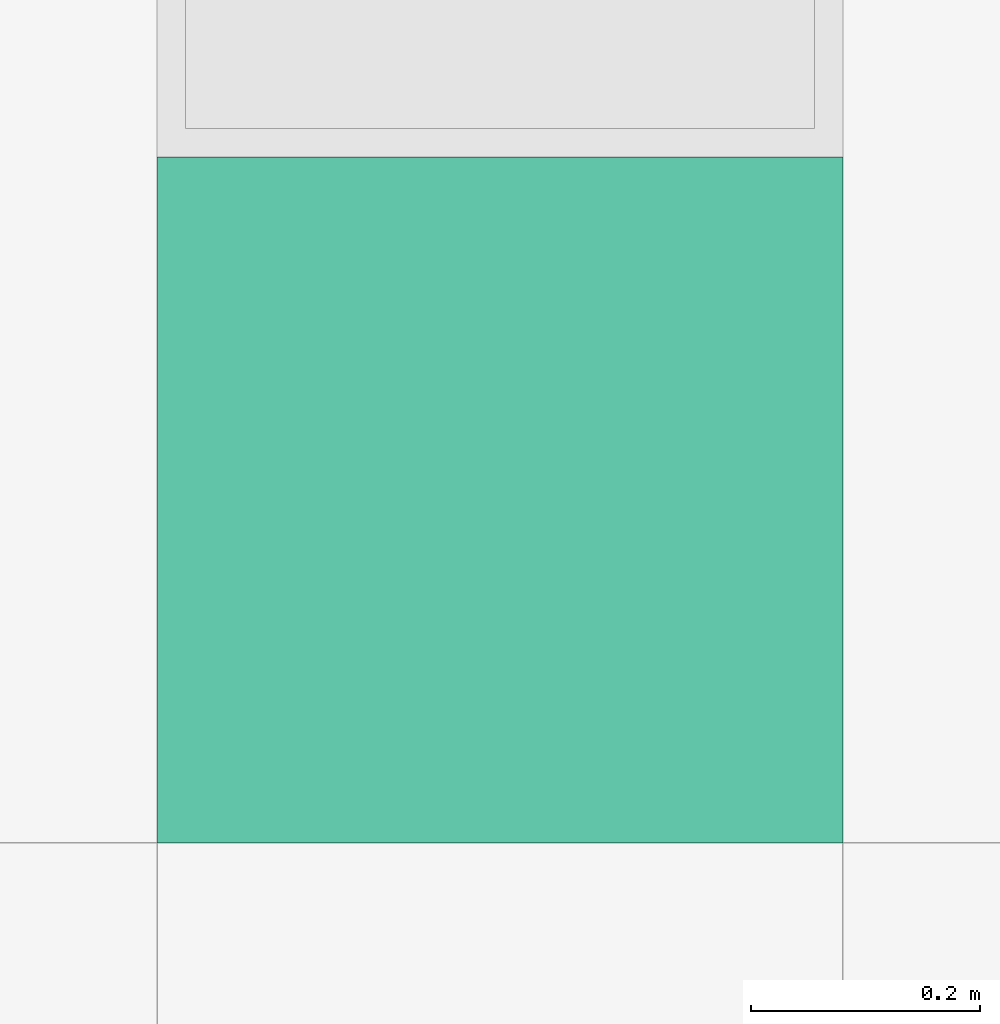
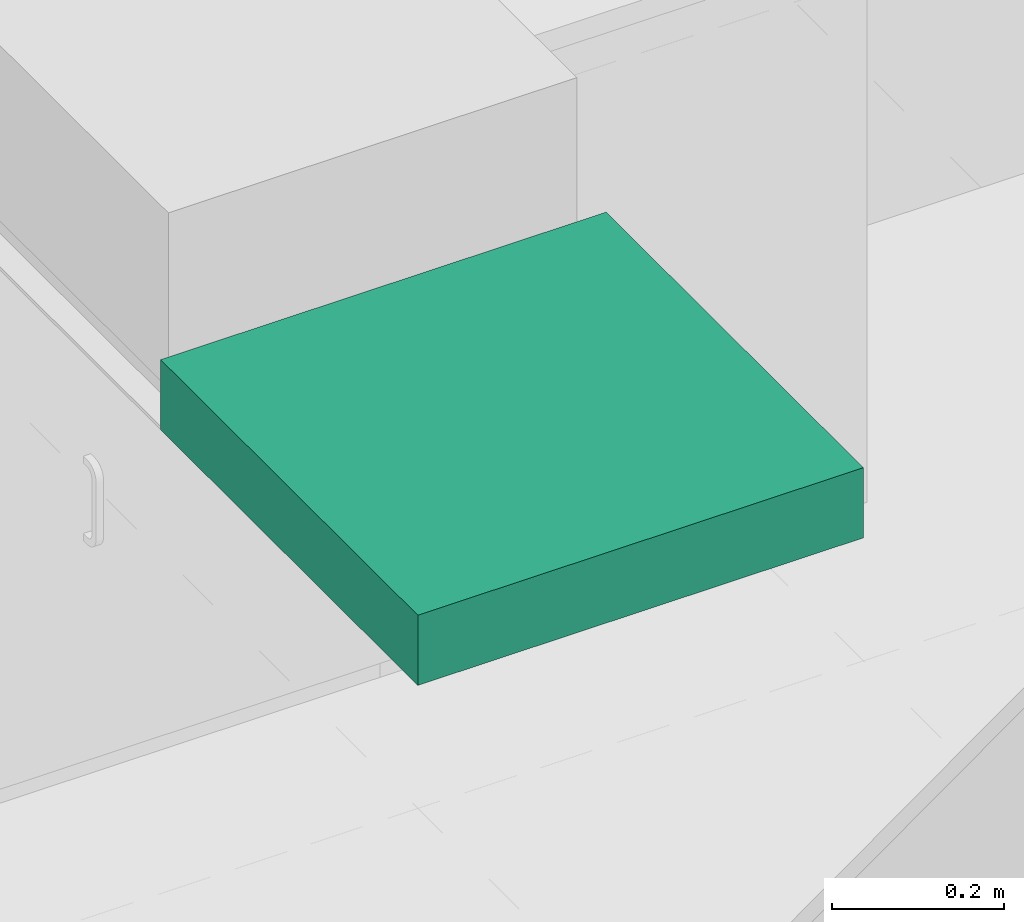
# One storey, part 210 of 347: 1 flow terminal.
"""IFC2X3 building model written with IfcOpenShell, lengths in millimetres."""

import ifcopenshell
import ifcopenshell.guid

model = None  # the IFC model being written
_history = None  # IfcOwnerHistory: only IFC2X3 demands one
_inside = {}  # id of a spatial element -> (the spatial element, [elements in it])
_under = {}  # id of a project, library or spatial element -> (it, [spatial elements below it])
_declared = {}  # id of a project -> (the project, [libraries it declares])
_typed = {}  # id of a type object -> (the type object, [elements of that type])
_made_of = {}  # id of a material, layer set ... -> (it, [elements and type objects made of it])


def new_model(schema):
    """Start an empty IFC model of exactly this schema.

    Asked for "IFC4X3", IfcOpenShell would pick the latest addendum, in which some entities
    have other attributes; the version numbers below select the first issue.
    IFC2X3 requires an IfcOwnerHistory on every rooted entity: one is made here for all.
    """
    global model, _history
    if schema == "IFC4X3":
        model = ifcopenshell.file(schema_version=(4, 3, 0, 0))
    else:
        model = ifcopenshell.file(schema=schema)
    _inside.clear()
    _under.clear()
    _declared.clear()
    _typed.clear()
    _made_of.clear()
    _history = None
    if model.schema == "IFC2X3":
        org = make("IfcOrganization", Name="unknown")
        user = make(
            "IfcPersonAndOrganization",
            ThePerson=make("IfcPerson", FamilyName="unknown"),
            TheOrganization=org,
        )
        app = make(
            "IfcApplication",
            ApplicationDeveloper=org,
            Version="unknown",
            ApplicationFullName="unknown",
            ApplicationIdentifier="unknown",
        )
        _history = make(
            "IfcOwnerHistory",
            OwningUser=user,
            OwningApplication=app,
            ChangeAction="ADDED",
            CreationDate=0,
        )
    return model


def make(cls, **values):
    """One entity of the class cls with the attributes given. An attribute that is None is left unset."""
    return model.create_entity(
        cls, **{name: value for name, value in values.items() if value is not None}
    )


def entity(cls, *values):
    """Any entity or typed value of the class cls, its attributes in the order of the schema. None: left unset."""
    e = model.create_entity(cls)
    for i, value in enumerate(values):
        if value is not None:
            e[i] = value
    return e


def rooted(cls, **values):
    """An entity with a GlobalId (a new one), such as an element, a storey or a relation."""
    return make(cls, GlobalId=ifcopenshell.guid.new(), OwnerHistory=_history, **values)


def si_unit(unit_type, name, prefix=None):
    """IfcSIUnit, for example si_unit("LENGTHUNIT", "METRE", prefix="MILLI")."""
    return make("IfcSIUnit", UnitType=unit_type, Prefix=prefix, Name=name)


def converted_unit(unit_type, name, factor, base, dimensions=None, offset=None):
    """IfcConversionBasedUnit, such as the inch: factor (a typed value) times the base unit."""
    return make(
        "IfcConversionBasedUnit"
        if offset is None
        else "IfcConversionBasedUnitWithOffset",
        ConversionOffset=offset,
        Dimensions=None
        if dimensions is None
        else entity("IfcDimensionalExponents", *dimensions),
        UnitType=unit_type,
        Name=name,
        ConversionFactor=make(
            "IfcMeasureWithUnit", ValueComponent=factor, UnitComponent=base
        ),
    )


def derived_unit(unit_type, elements):
    """IfcDerivedUnit: a product of units, each with its exponent."""
    return make(
        "IfcDerivedUnit",
        Elements=[
            make("IfcDerivedUnitElement", Unit=unit, Exponent=power)
            for unit, power in elements
        ],
        UnitType=unit_type,
    )


def money_unit(currency):
    """IfcMonetaryUnit."""
    return make("IfcMonetaryUnit", Currency=currency)


def assignment(units):
    """IfcUnitAssignment: the units of a project."""
    return None if units is None else make("IfcUnitAssignment", Units=units)


def point(xyz):
    """IfcCartesianPoint."""
    return None if xyz is None else make("IfcCartesianPoint", Coordinates=xyz)


def direction(xyz):
    """IfcDirection."""
    return None if xyz is None else make("IfcDirection", DirectionRatios=xyz)


def frame(location, z_axis=None, x_axis=None):
    """IfcAxis2Placement3D, a coordinate frame: its origin and axes. An axis left out is left unset."""
    return make(
        "IfcAxis2Placement3D",
        Location=point(location),
        Axis=direction(z_axis),
        RefDirection=direction(x_axis),
    )


def origin_with_axes():
    """The frame at (0, 0, 0) with the z axis (0, 0, 1) and the x axis (1, 0, 0) written out."""
    return frame((0.0, 0.0, 0.0), z_axis=(0.0, 0.0, 1.0), x_axis=(1.0, 0.0, 0.0))


def place(relative_to, where):
    """IfcLocalPlacement: puts the frame where relative to a parent placement (None: the world)."""
    return make(
        "IfcLocalPlacement", PlacementRelTo=relative_to, RelativePlacement=where
    )


def context(
    kind, dimensions, precision=None, world=None, true_north=None, identifier=None
):
    """IfcGeometricRepresentationContext, for example the 3D "Model" context."""
    return make(
        "IfcGeometricRepresentationContext",
        ContextIdentifier=identifier,
        ContextType=kind,
        CoordinateSpaceDimension=dimensions,
        Precision=precision,
        WorldCoordinateSystem=world,
        TrueNorth=true_north,
    )


def subcontext(parent, identifier, kind, view, scale=None):
    """IfcGeometricRepresentationSubContext, for example "Body" below "Model"."""
    return make(
        "IfcGeometricRepresentationSubContext",
        ContextIdentifier=identifier,
        ContextType=kind,
        ParentContext=parent,
        TargetScale=scale,
        TargetView=view,
    )


def project(units=None, contexts=None):
    """IfcProject with its units and contexts."""
    return rooted(
        "IfcProject",
        Name="project",
        RepresentationContexts=contexts,
        UnitsInContext=assignment(units),
    )


def spatial(cls, under=None, at=None, **own):
    """A site, building, storey or space (cls), placed at a placement, below another one or the project."""
    s = rooted(cls, ObjectPlacement=at, **own)
    if under is not None:
        _under.setdefault(under.id(), (under, []))[1].append(s)
    return s


def faces_of(points, faces, orient=None, outer=None):
    """IfcFace entities. A face is a list of loops; a loop is a list of indices into points, from 0.

    orient and outer hold one flag for each loop. By default every Orientation is true, the
    first loop of a face is its IfcFaceOuterBound and the others are IfcFaceBound.
    """
    made = []
    for i, loops in enumerate(faces):
        bounds = []
        for j, loop in enumerate(loops):
            is_outer = j == 0 if outer is None else outer[i][j]
            bounds.append(
                make(
                    "IfcFaceOuterBound" if is_outer else "IfcFaceBound",
                    Bound=make("IfcPolyLoop", Polygon=[points[k] for k in loop]),
                    Orientation=True if orient is None else orient[i][j],
                )
            )
        made.append(make("IfcFace", Bounds=bounds))
    return made


def open_shell(faces, orient=None, outer=None):
    """The faces of one IfcOpenShell. surface_model builds it on its shared points."""
    return ("IfcOpenShell", faces, orient, outer)


def faceted_brep(points, faces, orient=None, outer=None, voids=None):
    """IfcFacetedBrep: a solid bounded by flat faces; with voids (closed shells), ...WithVoids."""
    shared = [point(p) for p in points]
    hull = make("IfcClosedShell", CfsFaces=faces_of(shared, faces, orient, outer))
    if voids is None:
        return make("IfcFacetedBrep", Outer=hull)
    return make(
        "IfcFacetedBrepWithVoids",
        Outer=hull,
        Voids=[
            make(cls, CfsFaces=faces_of(shared, fs, o, b)) for cls, fs, o, b in voids
        ],
    )


def surface_model(cls, points, shells):
    """IfcFaceBasedSurfaceModel or IfcShellBasedSurfaceModel (cls): surfaces that need not close."""
    shared = [point(p) for p in points]
    made = [make(c, CfsFaces=faces_of(shared, fs, o, b)) for c, fs, o, b in shells]
    if cls == "IfcFaceBasedSurfaceModel":
        return make(cls, FbsmFaces=made)
    return make(cls, SbsmBoundary=made)


def shape(context_of_items, identifier, shape_type, items):
    """IfcShapeRepresentation: the items that make up one representation, for example the "Body"."""
    return make(
        "IfcShapeRepresentation",
        ContextOfItems=context_of_items,
        RepresentationIdentifier=identifier,
        RepresentationType=shape_type,
        Items=items,
    )


def source(mapping_origin, context_of_items, identifier, shape_type, items):
    """IfcRepresentationMap: a shape defined once, which mapped items show again and again."""
    return make(
        "IfcRepresentationMap",
        MappingOrigin=mapping_origin,
        MappedRepresentation=shape(context_of_items, identifier, shape_type, items),
    )


def transform(
    local_origin,
    x_axis=None,
    y_axis=None,
    z_axis=None,
    scale=None,
    scale2=None,
    scale3=None,
    uniform=True,
):
    """IfcCartesianTransformationOperator3D, or its non-uniform kind. x_axis, y_axis, z_axis: its Axis1, 2, 3."""
    if uniform:
        return make(
            "IfcCartesianTransformationOperator3D",
            Axis1=direction(x_axis),
            Axis2=direction(y_axis),
            LocalOrigin=point(local_origin),
            Scale=scale,
            Axis3=direction(z_axis),
        )
    return make(
        "IfcCartesianTransformationOperator3DnonUniform",
        Axis1=direction(x_axis),
        Axis2=direction(y_axis),
        LocalOrigin=point(local_origin),
        Scale=scale,
        Axis3=direction(z_axis),
        Scale2=scale2,
        Scale3=scale3,
    )


def mapped(mapping_source, mapping_target):
    """IfcMappedItem: shows the shape of a source again, moved by a transform."""
    return make(
        "IfcMappedItem", MappingSource=mapping_source, MappingTarget=mapping_target
    )


def made_of(thing, what):
    """Note that an element or type object is made of a material, layer set ...; save() writes the relation."""
    if what is not None:
        _made_of.setdefault(what.id(), (what, []))[1].append(thing)
    return thing


def type_object(cls, material=None, **own):
    """A type object (cls), such as IfcWallType, which elements share."""
    return made_of(rooted(cls, **own), material)


def type_shapes(of_type, sources):
    """Give a type object the sources (RepresentationMaps) that its elements show as mapped items."""
    of_type.RepresentationMaps = sources


def element(
    cls,
    number,
    at=None,
    inside=None,
    cuts=None,
    type_object=None,
    material=None,
    context=None,
    identifier="Body",
    shape_type=None,
    held_by="IfcProductDefinitionShape",
    body=None,
    shapes=None,
    **own,
):
    """One element of the class cls, such as IfcWall. Its Tag is "e" and its number.

    at: its placement. inside: the storey or other place that contains it. cuts: it is an
    opening in that element (IfcRelVoidsElement). A single representation is given by context,
    identifier, shape_type and body (its items); several are given by shapes. held_by: the class
    of the entity that holds the representations. save() writes the other relations.
    """
    e = rooted(cls, Tag="e%d" % number, ObjectPlacement=at, **own)
    if body is not None:
        shapes = [shape(context, identifier, shape_type, body)]
    if shapes is not None:
        e.Representation = make(held_by, Representations=shapes)
    if inside is not None:
        _inside.setdefault(inside.id(), (inside, []))[1].append(e)
    if cuts is not None:
        rooted(
            "IfcRelVoidsElement", RelatingBuildingElement=cuts, RelatedOpeningElement=e
        )
    if type_object is not None:
        _typed.setdefault(type_object.id(), (type_object, []))[1].append(e)
    return made_of(e, material)


def aggregate(whole, parts):
    """IfcRelAggregates: a whole, such as a stair, and the parts it consists of."""
    return rooted("IfcRelAggregates", RelatingObject=whole, RelatedObjects=parts)


def save(model, path):
    """Write the relations noted so far, then the file.

    IfcRelAggregates (storeys below a building ...), IfcRelContainedInSpatialStructure (elements
    in a storey), IfcRelDefinesByType, IfcRelAssociatesMaterial and IfcRelDeclares: one each for
    every whole, place, type object, material and project.
    """
    for whole, parts in _under.values():
        aggregate(whole, parts)
    for where, things in _inside.values():
        rooted(
            "IfcRelContainedInSpatialStructure",
            RelatedElements=things,
            RelatingStructure=where,
        )
    for kind, things in _typed.values():
        rooted("IfcRelDefinesByType", RelatedObjects=things, RelatingType=kind)
    for what, things in _made_of.values():
        rooted("IfcRelAssociatesMaterial", RelatedObjects=things, RelatingMaterial=what)
    for by, libraries in _declared.values():
        rooted("IfcRelDeclares", RelatingContext=by, RelatedDefinitions=libraries)
    model.write(path)


model = new_model("IFC2X3")

# Units and contexts
model_context = context("Model", 3, precision=0.01, world=origin_with_axes(), true_north=direction((0.0, 1.0)))
plan_context = context("Plan", 3, precision=0.01, world=origin_with_axes(), true_north=direction((0.0, 1.0)))
body_context = subcontext(model_context, "Body", "Model", "MODEL_VIEW")
ifc_project = project(units=[si_unit("LENGTHUNIT", "METRE", prefix="MILLI"), si_unit("AREAUNIT", "SQUARE_METRE"), si_unit("VOLUMEUNIT", "CUBIC_METRE"), converted_unit("PLANEANGLEUNIT", "DEGREE", entity("IfcPlaneAngleMeasure", 0.0174532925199), si_unit("PLANEANGLEUNIT", "RADIAN"), dimensions=[0, 0, 0, 0, 0, 0, 0]), money_unit("EUR"), converted_unit("TIMEUNIT", "Year", entity("IfcTimeMeasure", 31556926.0), si_unit("TIMEUNIT", "SECOND"), dimensions=[0, 0, 1, 0, 0, 0, 0]), si_unit("MASSUNIT", "GRAM", prefix="KILO"), si_unit("THERMODYNAMICTEMPERATUREUNIT", "DEGREE_CELSIUS"), si_unit("LUMINOUSINTENSITYUNIT", "LUMEN"), si_unit("ENERGYUNIT", "JOULE", prefix="MEGA"), derived_unit("THERMALCONDUCTANCEUNIT", [(si_unit("POWERUNIT", "WATT"), 1), (si_unit("LENGTHUNIT", "METRE"), -1), (si_unit("THERMODYNAMICTEMPERATUREUNIT", "KELVIN"), -1)]), derived_unit("SPECIFICHEATCAPACITYUNIT", [(si_unit("ENERGYUNIT", "JOULE"), 1), (si_unit("MASSUNIT", "GRAM", prefix="KILO"), -1), (si_unit("THERMODYNAMICTEMPERATUREUNIT", "KELVIN"), -1)]), derived_unit("MASSDENSITYUNIT", [(si_unit("MASSUNIT", "GRAM", prefix="KILO"), 1), (si_unit("VOLUMEUNIT", "CUBIC_METRE"), -1)])], contexts=[model_context, plan_context])

# Site, building, storey
site_placement = place(None, origin_with_axes())
site = spatial("IfcSite", under=ifc_project, at=site_placement, Name="Site", CompositionType="ELEMENT")
building_placement = place(site_placement, origin_with_axes())
building = spatial("IfcBuilding", under=site, at=building_placement, Name="Naam gebouw", CompositionType="ELEMENT")
storey_placement = place(building_placement, origin_with_axes())
storey = spatial("IfcBuildingStorey", under=building, at=storey_placement, Name="begane grond", CompositionType="ELEMENT", Elevation=0.0)

# Flow terminal
lamp_type = type_object("IfcLampType", Name="TL plafond 25", PredefinedType="NOTDEFINED")
shared_shape = source(origin_with_axes(), body_context, "Body", "SurfaceModel", [
    faceted_brep([(0.0, 0.0, -100.0), (600.0, 0.0, -100.0), (600.0, 0.0, 0.0), (0.0, 0.0, 0.0), (0.0, 600.0, -100.0), (600.0, 600.0, -100.0), (40.0, 40.0, -100.0), (560.0, 40.0, -100.0), (560.0, 560.0, -100.0), (40.0, 560.0, -100.0), (600.0, 600.0, 0.0), (0.0, 600.0, 0.0), (40.0, 40.0, 0.0), (40.0, 560.0, 0.0), (560.0, 560.0, 0.0), (560.0, 40.0, 0.0)], [[[0, 1, 2, 3]], [[0, 4, 5, 1], [6, 7, 8, 9]], [[1, 5, 10, 2]], [[3, 2, 10, 11], [12, 13, 14, 15]], [[4, 0, 3, 11]], [[5, 4, 11, 10]], [[7, 6, 12, 15]], [[8, 7, 15, 14]], [[9, 8, 14, 13]], [[6, 9, 13, 12]]]),
    faceted_brep([(40.0, 40.0, -16.3333333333), (560.0, 40.0, -16.3333333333), (560.0, 40.0, 0.0), (40.0, 40.0, 0.0), (40.0, 560.0, -16.3333333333), (560.0, 560.0, -16.3333333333), (560.0, 560.0, 0.0), (40.0, 560.0, 0.0)], [[[0, 1, 2, 3]], [[0, 4, 5, 1]], [[1, 5, 6, 2]], [[3, 2, 6, 7]], [[4, 0, 3, 7]], [[5, 4, 7, 6]]]),
    surface_model("IfcShellBasedSurfaceModel", [(559.0, 41.0, -100.0), (40.0, 41.0, -100.0), (40.0, 559.0, -100.0), (559.0, 559.0, -100.0)], [open_shell([[[0, 1, 2, 3]]])]),
    faceted_brep([(40.0, 40.0, -100.0), (560.0, 40.0, -100.0), (560.0, 40.0, -60.0), (40.0, 40.0, -60.0), (40.0, 560.0, -100.0), (560.0, 560.0, -100.0), (41.0, 41.0, -100.0), (559.0, 41.0, -100.0), (559.0, 559.0, -100.0), (41.0, 559.0, -100.0), (560.0, 560.0, -60.0), (40.0, 560.0, -60.0), (41.0, 41.0, -60.0), (41.0, 559.0, -60.0), (559.0, 559.0, -60.0), (559.0, 41.0, -60.0)], [[[0, 1, 2, 3]], [[0, 4, 5, 1], [6, 7, 8, 9]], [[1, 5, 10, 2]], [[3, 2, 10, 11], [12, 13, 14, 15]], [[4, 0, 3, 11]], [[5, 4, 11, 10]], [[7, 6, 12, 15]], [[8, 7, 15, 14]], [[9, 8, 14, 13]], [[6, 9, 13, 12]]]),
    faceted_brep([(40.0, 144.0, -48.3333333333), (40.0, 149.740251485, -47.191526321), (560.0, 149.740251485, -47.191526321), (560.0, 144.0, -48.3333333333), (40.0, 138.259748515, -47.191526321), (40.0, 133.393398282, -43.9399350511), (40.0, 130.141807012, -39.0735848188), (40.0, 129.0, -33.3333333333), (40.0, 130.141807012, -27.5930818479), (40.0, 133.393398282, -22.7267316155), (40.0, 138.259748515, -19.4751403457), (40.0, 144.0, -18.3333333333), (40.0, 149.740251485, -19.4751403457), (40.0, 154.606601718, -22.7267316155), (40.0, 157.858192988, -27.5930818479), (40.0, 159.0, -33.3333333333), (40.0, 157.858192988, -39.0735848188), (40.0, 154.606601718, -43.9399350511), (40.0, 144.0, -46.3333333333), (40.0, 148.974884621, -45.343767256), (40.0, 153.192388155, -42.5257214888), (40.0, 156.010433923, -38.3082179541), (40.0, 157.0, -33.3333333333), (40.0, 156.010433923, -28.3584487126), (40.0, 153.192388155, -24.1409451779), (40.0, 148.974884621, -21.3228994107), (40.0, 144.0, -20.3333333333), (40.0, 139.025115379, -21.3228994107), (40.0, 134.807611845, -24.1409451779), (40.0, 131.989566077, -28.3584487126), (40.0, 131.0, -33.3333333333), (40.0, 131.989566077, -38.3082179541), (40.0, 134.807611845, -42.5257214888), (40.0, 139.025115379, -45.343767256), (560.0, 154.606601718, -43.9399350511), (560.0, 157.858192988, -39.0735848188), (560.0, 159.0, -33.3333333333), (560.0, 157.858192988, -27.5930818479), (560.0, 154.606601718, -22.7267316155), (560.0, 149.740251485, -19.4751403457), (560.0, 144.0, -18.3333333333), (560.0, 138.259748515, -19.4751403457), (560.0, 133.393398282, -22.7267316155), (560.0, 130.141807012, -27.5930818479), (560.0, 129.0, -33.3333333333), (560.0, 130.141807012, -39.0735848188), (560.0, 133.393398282, -43.9399350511), (560.0, 138.259748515, -47.191526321), (560.0, 144.0, -46.3333333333), (560.0, 139.025115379, -45.343767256), (560.0, 134.807611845, -42.5257214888), (560.0, 131.989566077, -38.3082179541), (560.0, 131.0, -33.3333333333), (560.0, 131.989566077, -28.3584487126), (560.0, 134.807611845, -24.1409451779), (560.0, 139.025115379, -21.3228994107), (560.0, 144.0, -20.3333333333), (560.0, 148.974884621, -21.3228994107), (560.0, 153.192388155, -24.1409451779), (560.0, 156.010433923, -28.3584487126), (560.0, 157.0, -33.3333333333), (560.0, 156.010433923, -38.3082179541), (560.0, 153.192388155, -42.5257214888), (560.0, 148.974884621, -45.343767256)], [[[0, 1, 2, 3]], [[0, 4, 5, 6, 7, 8, 9, 10, 11, 12, 13, 14, 15, 16, 17, 1], [18, 19, 20, 21, 22, 23, 24, 25, 26, 27, 28, 29, 30, 31, 32, 33]], [[1, 17, 34, 2]], [[3, 2, 34, 35, 36, 37, 38, 39, 40, 41, 42, 43, 44, 45, 46, 47], [48, 49, 50, 51, 52, 53, 54, 55, 56, 57, 58, 59, 60, 61, 62, 63]], [[4, 0, 3, 47]], [[5, 4, 47, 46]], [[6, 5, 46, 45]], [[7, 6, 45, 44]], [[8, 7, 44, 43]], [[9, 8, 43, 42]], [[10, 9, 42, 41]], [[11, 10, 41, 40]], [[12, 11, 40, 39]], [[13, 12, 39, 38]], [[14, 13, 38, 37]], [[15, 14, 37, 36]], [[16, 15, 36, 35]], [[17, 16, 35, 34]], [[19, 18, 48, 63]], [[20, 19, 63, 62]], [[21, 20, 62, 61]], [[22, 21, 61, 60]], [[23, 22, 60, 59]], [[24, 23, 59, 58]], [[25, 24, 58, 57]], [[26, 25, 57, 56]], [[27, 26, 56, 55]], [[28, 27, 55, 54]], [[29, 28, 54, 53]], [[30, 29, 53, 52]], [[31, 30, 52, 51]], [[32, 31, 51, 50]], [[33, 32, 50, 49]], [[18, 33, 49, 48]]]),
    faceted_brep([(40.0, 248.0, -48.3333333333), (40.0, 253.740251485, -47.191526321), (560.0, 253.740251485, -47.191526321), (560.0, 248.0, -48.3333333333), (40.0, 242.259748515, -47.191526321), (40.0, 237.393398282, -43.9399350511), (40.0, 234.141807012, -39.0735848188), (40.0, 233.0, -33.3333333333), (40.0, 234.141807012, -27.5930818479), (40.0, 237.393398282, -22.7267316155), (40.0, 242.259748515, -19.4751403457), (40.0, 248.0, -18.3333333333), (40.0, 253.740251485, -19.4751403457), (40.0, 258.606601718, -22.7267316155), (40.0, 261.858192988, -27.5930818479), (40.0, 263.0, -33.3333333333), (40.0, 261.858192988, -39.0735848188), (40.0, 258.606601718, -43.9399350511), (40.0, 248.0, -46.3333333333), (40.0, 252.974884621, -45.343767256), (40.0, 257.192388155, -42.5257214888), (40.0, 260.010433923, -38.3082179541), (40.0, 261.0, -33.3333333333), (40.0, 260.010433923, -28.3584487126), (40.0, 257.192388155, -24.1409451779), (40.0, 252.974884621, -21.3228994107), (40.0, 248.0, -20.3333333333), (40.0, 243.025115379, -21.3228994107), (40.0, 238.807611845, -24.1409451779), (40.0, 235.989566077, -28.3584487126), (40.0, 235.0, -33.3333333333), (40.0, 235.989566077, -38.3082179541), (40.0, 238.807611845, -42.5257214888), (40.0, 243.025115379, -45.343767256), (560.0, 258.606601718, -43.9399350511), (560.0, 261.858192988, -39.0735848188), (560.0, 263.0, -33.3333333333), (560.0, 261.858192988, -27.5930818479), (560.0, 258.606601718, -22.7267316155), (560.0, 253.740251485, -19.4751403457), (560.0, 248.0, -18.3333333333), (560.0, 242.259748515, -19.4751403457), (560.0, 237.393398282, -22.7267316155), (560.0, 234.141807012, -27.5930818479), (560.0, 233.0, -33.3333333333), (560.0, 234.141807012, -39.0735848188), (560.0, 237.393398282, -43.9399350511), (560.0, 242.259748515, -47.191526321), (560.0, 248.0, -46.3333333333), (560.0, 243.025115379, -45.343767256), (560.0, 238.807611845, -42.5257214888), (560.0, 235.989566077, -38.3082179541), (560.0, 235.0, -33.3333333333), (560.0, 235.989566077, -28.3584487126), (560.0, 238.807611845, -24.1409451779), (560.0, 243.025115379, -21.3228994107), (560.0, 248.0, -20.3333333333), (560.0, 252.974884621, -21.3228994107), (560.0, 257.192388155, -24.1409451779), (560.0, 260.010433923, -28.3584487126), (560.0, 261.0, -33.3333333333), (560.0, 260.010433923, -38.3082179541), (560.0, 257.192388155, -42.5257214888), (560.0, 252.974884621, -45.343767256)], [[[0, 1, 2, 3]], [[0, 4, 5, 6, 7, 8, 9, 10, 11, 12, 13, 14, 15, 16, 17, 1], [18, 19, 20, 21, 22, 23, 24, 25, 26, 27, 28, 29, 30, 31, 32, 33]], [[1, 17, 34, 2]], [[3, 2, 34, 35, 36, 37, 38, 39, 40, 41, 42, 43, 44, 45, 46, 47], [48, 49, 50, 51, 52, 53, 54, 55, 56, 57, 58, 59, 60, 61, 62, 63]], [[4, 0, 3, 47]], [[5, 4, 47, 46]], [[6, 5, 46, 45]], [[7, 6, 45, 44]], [[8, 7, 44, 43]], [[9, 8, 43, 42]], [[10, 9, 42, 41]], [[11, 10, 41, 40]], [[12, 11, 40, 39]], [[13, 12, 39, 38]], [[14, 13, 38, 37]], [[15, 14, 37, 36]], [[16, 15, 36, 35]], [[17, 16, 35, 34]], [[19, 18, 48, 63]], [[20, 19, 63, 62]], [[21, 20, 62, 61]], [[22, 21, 61, 60]], [[23, 22, 60, 59]], [[24, 23, 59, 58]], [[25, 24, 58, 57]], [[26, 25, 57, 56]], [[27, 26, 56, 55]], [[28, 27, 55, 54]], [[29, 28, 54, 53]], [[30, 29, 53, 52]], [[31, 30, 52, 51]], [[32, 31, 51, 50]], [[33, 32, 50, 49]], [[18, 33, 49, 48]]]),
    faceted_brep([(40.0, 352.0, -48.3333333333), (40.0, 357.740251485, -47.191526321), (560.0, 357.740251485, -47.191526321), (560.0, 352.0, -48.3333333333), (40.0, 346.259748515, -47.191526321), (40.0, 341.393398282, -43.9399350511), (40.0, 338.141807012, -39.0735848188), (40.0, 337.0, -33.3333333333), (40.0, 338.141807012, -27.5930818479), (40.0, 341.393398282, -22.7267316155), (40.0, 346.259748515, -19.4751403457), (40.0, 352.0, -18.3333333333), (40.0, 357.740251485, -19.4751403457), (40.0, 362.606601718, -22.7267316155), (40.0, 365.858192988, -27.5930818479), (40.0, 367.0, -33.3333333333), (40.0, 365.858192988, -39.0735848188), (40.0, 362.606601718, -43.9399350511), (40.0, 352.0, -46.3333333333), (40.0, 356.974884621, -45.343767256), (40.0, 361.192388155, -42.5257214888), (40.0, 364.010433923, -38.3082179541), (40.0, 365.0, -33.3333333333), (40.0, 364.010433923, -28.3584487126), (40.0, 361.192388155, -24.1409451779), (40.0, 356.974884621, -21.3228994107), (40.0, 352.0, -20.3333333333), (40.0, 347.025115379, -21.3228994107), (40.0, 342.807611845, -24.1409451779), (40.0, 339.989566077, -28.3584487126), (40.0, 339.0, -33.3333333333), (40.0, 339.989566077, -38.3082179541), (40.0, 342.807611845, -42.5257214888), (40.0, 347.025115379, -45.343767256), (560.0, 362.606601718, -43.9399350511), (560.0, 365.858192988, -39.0735848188), (560.0, 367.0, -33.3333333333), (560.0, 365.858192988, -27.5930818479), (560.0, 362.606601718, -22.7267316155), (560.0, 357.740251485, -19.4751403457), (560.0, 352.0, -18.3333333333), (560.0, 346.259748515, -19.4751403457), (560.0, 341.393398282, -22.7267316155), (560.0, 338.141807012, -27.5930818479), (560.0, 337.0, -33.3333333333), (560.0, 338.141807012, -39.0735848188), (560.0, 341.393398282, -43.9399350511), (560.0, 346.259748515, -47.191526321), (560.0, 352.0, -46.3333333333), (560.0, 347.025115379, -45.343767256), (560.0, 342.807611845, -42.5257214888), (560.0, 339.989566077, -38.3082179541), (560.0, 339.0, -33.3333333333), (560.0, 339.989566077, -28.3584487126), (560.0, 342.807611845, -24.1409451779), (560.0, 347.025115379, -21.3228994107), (560.0, 352.0, -20.3333333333), (560.0, 356.974884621, -21.3228994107), (560.0, 361.192388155, -24.1409451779), (560.0, 364.010433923, -28.3584487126), (560.0, 365.0, -33.3333333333), (560.0, 364.010433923, -38.3082179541), (560.0, 361.192388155, -42.5257214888), (560.0, 356.974884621, -45.343767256)], [[[0, 1, 2, 3]], [[0, 4, 5, 6, 7, 8, 9, 10, 11, 12, 13, 14, 15, 16, 17, 1], [18, 19, 20, 21, 22, 23, 24, 25, 26, 27, 28, 29, 30, 31, 32, 33]], [[1, 17, 34, 2]], [[3, 2, 34, 35, 36, 37, 38, 39, 40, 41, 42, 43, 44, 45, 46, 47], [48, 49, 50, 51, 52, 53, 54, 55, 56, 57, 58, 59, 60, 61, 62, 63]], [[4, 0, 3, 47]], [[5, 4, 47, 46]], [[6, 5, 46, 45]], [[7, 6, 45, 44]], [[8, 7, 44, 43]], [[9, 8, 43, 42]], [[10, 9, 42, 41]], [[11, 10, 41, 40]], [[12, 11, 40, 39]], [[13, 12, 39, 38]], [[14, 13, 38, 37]], [[15, 14, 37, 36]], [[16, 15, 36, 35]], [[17, 16, 35, 34]], [[19, 18, 48, 63]], [[20, 19, 63, 62]], [[21, 20, 62, 61]], [[22, 21, 61, 60]], [[23, 22, 60, 59]], [[24, 23, 59, 58]], [[25, 24, 58, 57]], [[26, 25, 57, 56]], [[27, 26, 56, 55]], [[28, 27, 55, 54]], [[29, 28, 54, 53]], [[30, 29, 53, 52]], [[31, 30, 52, 51]], [[32, 31, 51, 50]], [[33, 32, 50, 49]], [[18, 33, 49, 48]]]),
    faceted_brep([(40.0, 456.0, -48.3333333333), (40.0, 461.740251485, -47.191526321), (560.0, 461.740251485, -47.191526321), (560.0, 456.0, -48.3333333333), (40.0, 450.259748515, -47.191526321), (40.0, 445.393398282, -43.9399350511), (40.0, 442.141807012, -39.0735848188), (40.0, 441.0, -33.3333333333), (40.0, 442.141807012, -27.5930818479), (40.0, 445.393398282, -22.7267316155), (40.0, 450.259748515, -19.4751403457), (40.0, 456.0, -18.3333333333), (40.0, 461.740251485, -19.4751403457), (40.0, 466.606601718, -22.7267316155), (40.0, 469.858192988, -27.5930818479), (40.0, 471.0, -33.3333333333), (40.0, 469.858192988, -39.0735848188), (40.0, 466.606601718, -43.9399350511), (40.0, 456.0, -46.3333333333), (40.0, 460.974884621, -45.343767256), (40.0, 465.192388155, -42.5257214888), (40.0, 468.010433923, -38.3082179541), (40.0, 469.0, -33.3333333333), (40.0, 468.010433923, -28.3584487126), (40.0, 465.192388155, -24.1409451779), (40.0, 460.974884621, -21.3228994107), (40.0, 456.0, -20.3333333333), (40.0, 451.025115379, -21.3228994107), (40.0, 446.807611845, -24.1409451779), (40.0, 443.989566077, -28.3584487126), (40.0, 443.0, -33.3333333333), (40.0, 443.989566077, -38.3082179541), (40.0, 446.807611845, -42.5257214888), (40.0, 451.025115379, -45.343767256), (560.0, 466.606601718, -43.9399350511), (560.0, 469.858192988, -39.0735848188), (560.0, 471.0, -33.3333333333), (560.0, 469.858192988, -27.5930818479), (560.0, 466.606601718, -22.7267316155), (560.0, 461.740251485, -19.4751403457), (560.0, 456.0, -18.3333333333), (560.0, 450.259748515, -19.4751403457), (560.0, 445.393398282, -22.7267316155), (560.0, 442.141807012, -27.5930818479), (560.0, 441.0, -33.3333333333), (560.0, 442.141807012, -39.0735848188), (560.0, 445.393398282, -43.9399350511), (560.0, 450.259748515, -47.191526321), (560.0, 456.0, -46.3333333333), (560.0, 451.025115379, -45.343767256), (560.0, 446.807611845, -42.5257214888), (560.0, 443.989566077, -38.3082179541), (560.0, 443.0, -33.3333333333), (560.0, 443.989566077, -28.3584487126), (560.0, 446.807611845, -24.1409451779), (560.0, 451.025115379, -21.3228994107), (560.0, 456.0, -20.3333333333), (560.0, 460.974884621, -21.3228994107), (560.0, 465.192388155, -24.1409451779), (560.0, 468.010433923, -28.3584487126), (560.0, 469.0, -33.3333333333), (560.0, 468.010433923, -38.3082179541), (560.0, 465.192388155, -42.5257214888), (560.0, 460.974884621, -45.343767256)], [[[0, 1, 2, 3]], [[0, 4, 5, 6, 7, 8, 9, 10, 11, 12, 13, 14, 15, 16, 17, 1], [18, 19, 20, 21, 22, 23, 24, 25, 26, 27, 28, 29, 30, 31, 32, 33]], [[1, 17, 34, 2]], [[3, 2, 34, 35, 36, 37, 38, 39, 40, 41, 42, 43, 44, 45, 46, 47], [48, 49, 50, 51, 52, 53, 54, 55, 56, 57, 58, 59, 60, 61, 62, 63]], [[4, 0, 3, 47]], [[5, 4, 47, 46]], [[6, 5, 46, 45]], [[7, 6, 45, 44]], [[8, 7, 44, 43]], [[9, 8, 43, 42]], [[10, 9, 42, 41]], [[11, 10, 41, 40]], [[12, 11, 40, 39]], [[13, 12, 39, 38]], [[14, 13, 38, 37]], [[15, 14, 37, 36]], [[16, 15, 36, 35]], [[17, 16, 35, 34]], [[19, 18, 48, 63]], [[20, 19, 63, 62]], [[21, 20, 62, 61]], [[22, 21, 61, 60]], [[23, 22, 60, 59]], [[24, 23, 59, 58]], [[25, 24, 58, 57]], [[26, 25, 57, 56]], [[27, 26, 56, 55]], [[28, 27, 55, 54]], [[29, 28, 54, 53]], [[30, 29, 53, 52]], [[31, 30, 52, 51]], [[32, 31, 51, 50]], [[33, 32, 50, 49]], [[18, 33, 49, 48]]]),
])
type_shapes(lamp_type, [shared_shape])
flow_terminal_placement = place(storey_placement, frame((27725.0, 15490.0000948, 3295.0), z_axis=(0.0, 0.0, 1.0), x_axis=(1.0, 0.0, 0.0)))
element("IfcFlowTerminal", 1, at=flow_terminal_placement, inside=storey, type_object=lamp_type, Name="63_Lamp-x", ObjectType="Lamp", context=body_context, shape_type="MappedRepresentation", body=[
    mapped(shared_shape, transform((0.0, 0.0, 0.0))),
])

save(model, "model.ifc")
